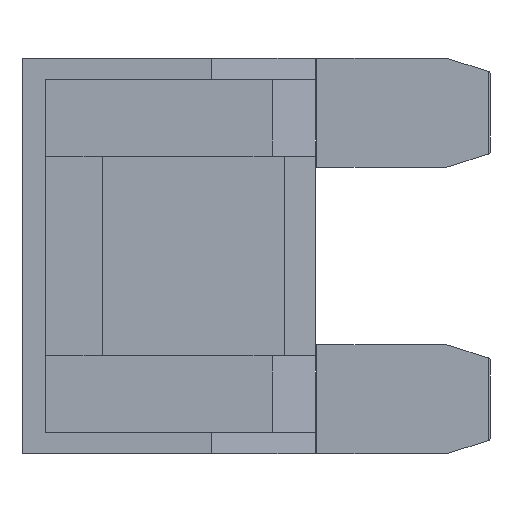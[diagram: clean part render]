
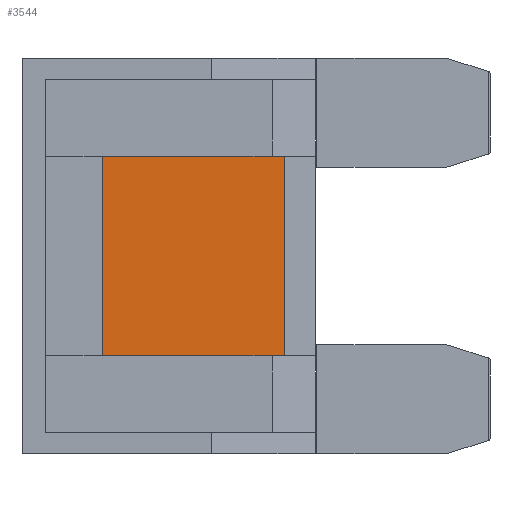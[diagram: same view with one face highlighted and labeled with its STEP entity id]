
A CAD part, left-side view. The second image highlights one B-rep face of the part: STEP entity #3544.
In plain terms, the highlighted planar face has unit normal (-1, 0, 0).
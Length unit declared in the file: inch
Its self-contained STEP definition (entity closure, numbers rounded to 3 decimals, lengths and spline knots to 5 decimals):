
#265=PLANE('',#3770);
#390=FACE_OUTER_BOUND('',#595,.T.);
#595=EDGE_LOOP('',(#2735,#2736,#2737,#2738));
#862=LINE('',#4746,#1246);
#864=LINE('',#4750,#1248);
#937=LINE('',#5159,#1321);
#938=LINE('',#5161,#1322);
#1246=VECTOR('',#4037,0.3937);
#1248=VECTOR('',#4041,0.3937);
#1321=VECTOR('',#4124,0.3937);
#1322=VECTOR('',#4127,0.3937);
#1611=VERTEX_POINT('',#4743);
#1612=VERTEX_POINT('',#4745);
#1613=VERTEX_POINT('',#4749);
#1732=VERTEX_POINT('',#5157);
#1994=EDGE_CURVE('',#1611,#1612,#862,.T.);
#1996=EDGE_CURVE('',#1613,#1612,#864,.T.);
#2122=EDGE_CURVE('',#1611,#1732,#937,.T.);
#2123=EDGE_CURVE('',#1732,#1613,#938,.T.);
#2735=ORIENTED_EDGE('',*,*,#1994,.F.);
#2736=ORIENTED_EDGE('',*,*,#2122,.T.);
#2737=ORIENTED_EDGE('',*,*,#2123,.T.);
#2738=ORIENTED_EDGE('',*,*,#1996,.T.);
#3544=ADVANCED_FACE('',(#390),#265,.F.);
#3770=AXIS2_PLACEMENT_3D('',#5162,#4128,#4129);
#4037=DIRECTION('',(0.,0.,-1.));
#4041=DIRECTION('',(0.,-1.,0.));
#4124=DIRECTION('',(0.,1.,0.));
#4127=DIRECTION('',(0.,0.,-1.));
#4128=DIRECTION('center_axis',(1.,0.,0.));
#4129=DIRECTION('ref_axis',(0.,0.,-1.));
#4743=CARTESIAN_POINT('',(-0.1752,-0.75646,0.288));
#4745=CARTESIAN_POINT('',(-0.1752,-0.75646,-0.288));
#4746=CARTESIAN_POINT('',(-0.1752,-0.75646,-0.28543));
#4749=CARTESIAN_POINT('',(-0.1752,-0.23146,-0.288));
#4750=CARTESIAN_POINT('',(-0.1752,-0.69271,-0.288));
#5157=CARTESIAN_POINT('',(-0.1752,-0.23146,0.288));
#5159=CARTESIAN_POINT('',(-0.1752,-0.38521,0.288));
#5161=CARTESIAN_POINT('',(-0.1752,-0.23146,-0.144));
#5162=CARTESIAN_POINT('Origin',(-0.1752,-0.53896,0.));
